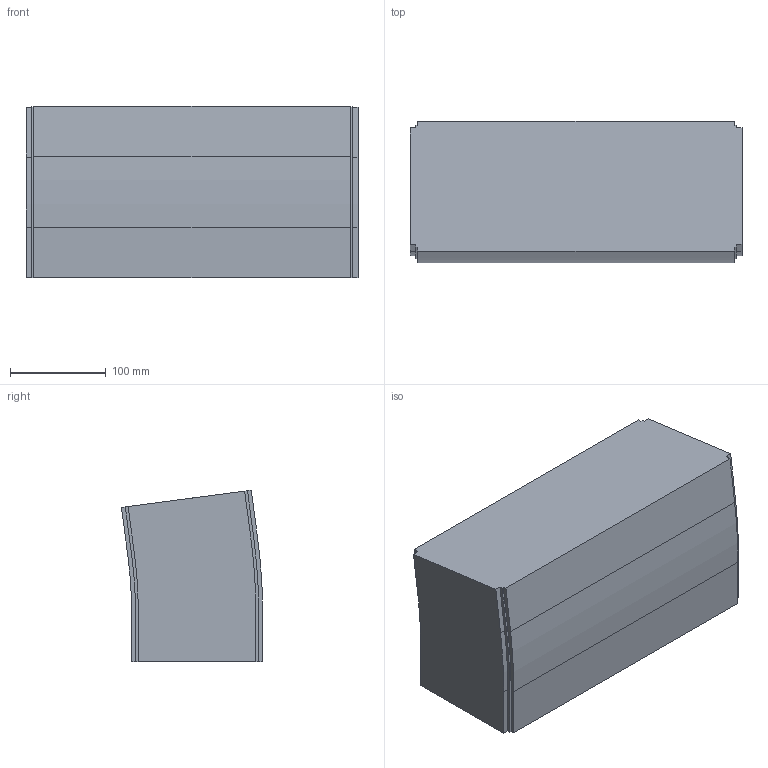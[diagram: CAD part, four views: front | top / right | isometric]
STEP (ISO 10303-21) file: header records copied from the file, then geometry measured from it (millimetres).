
FILE_DESCRIPTION (( 'STEP AP214' ), '1' );
FILE_NAME ('FS-MTC2-150-INOX verticaalbocht.350 7,5°.STEP', '2017-02-08T12:41:57', ( '' ), ( '' ), 'SwSTEP 2.0', 'SolidWorks 2016', '' );
FILE_SCHEMA (( 'AUTOMOTIVE_DESIGN' ));
Length unit declared in the file: millimetre
Products named in the file (1): FS-MTC2-150-INOX verticaalbocht.350 7,5°
Bounding box: 346 x 147.05 x 178.72 mm (x, y, z)
Volume: 8016358.6 mm3; surface area: 258545.3 mm2
Topology: 1 solids, 1 shells, 42 faces, 120 edges, 80 vertices
Faces by surface type: plane 32, cylinder 10
Entity records: 1398 total; most frequent: CARTESIAN_POINT 243, ORIENTED_EDGE 240, DIRECTION 226, EDGE_CURVE 120, VECTOR 100, LINE 100, VERTEX_POINT 80, AXIS2_PLACEMENT_3D 63
